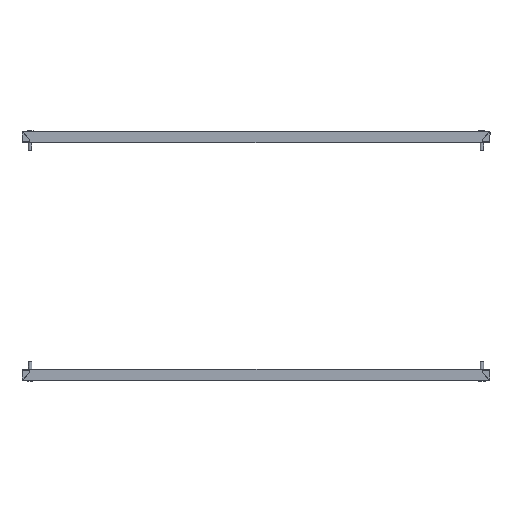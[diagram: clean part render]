
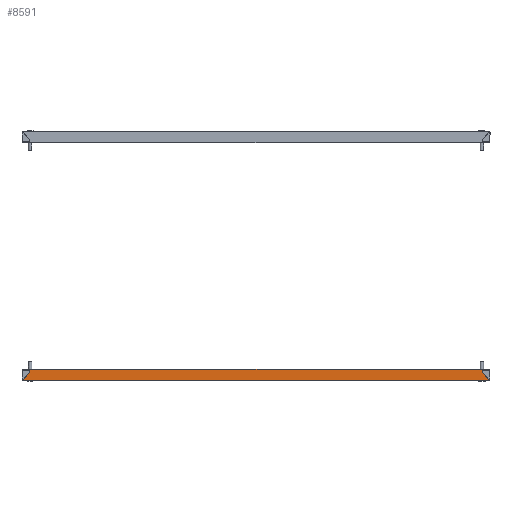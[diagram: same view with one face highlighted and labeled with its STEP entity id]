
A CAD part, front view. The second image highlights one B-rep face of the part: STEP entity #8591.
In plain terms, the highlighted planar face has unit normal (0, -1, 0).
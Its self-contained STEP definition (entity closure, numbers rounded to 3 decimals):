
#228 = VERTEX_POINT ( 'NONE', #6428 ) ;
#237 = ORIENTED_EDGE ( 'NONE', *, *, #2888, .T. ) ;
#255 = DIRECTION ( 'NONE',  ( 0.707, 0., 0.707 ) ) ;
#291 = EDGE_CURVE ( 'NONE', #8020, #8829, #2747, .T. ) ;
#915 = CARTESIAN_POINT ( 'NONE',  ( -386., -50., 11.646 ) ) ;
#940 = DIRECTION ( 'NONE',  ( -1., 0., 0. ) ) ;
#944 = CARTESIAN_POINT ( 'NONE',  ( -397.181, -50., -0.799 ) ) ;
#1234 = VERTEX_POINT ( 'NONE', #9453 ) ;
#1310 = CARTESIAN_POINT ( 'NONE',  ( -386., -50., 17.5 ) ) ;
#1389 = CARTESIAN_POINT ( 'NONE',  ( 397.223, -50., -1.5 ) ) ;
#1440 = EDGE_CURVE ( 'NONE', #2854, #8829, #4848, .T. ) ;
#1455 = EDGE_CURVE ( 'NONE', #228, #3863, #7176, .T. ) ;
#1557 = CARTESIAN_POINT ( 'NONE',  ( -397.223, -50., -1.5 ) ) ;
#1601 = VECTOR ( 'NONE', #255, 1000. ) ;
#1769 = PLANE ( 'NONE',  #4729 ) ;
#1998 = B_SPLINE_CURVE_WITH_KNOTS ( 'NONE', 3,
 ( #9263, #8615, #3936, #944, #6137, #1557 ),
 .UNSPECIFIED., .F., .F.,
 ( 4, 2, 4 ),
 ( 0.005, 0.006, 0.008 ),
 .UNSPECIFIED. ) ;
#2026 = DIRECTION ( 'NONE',  ( 0.707, 0., -0.707 ) ) ;
#2085 = CARTESIAN_POINT ( 'NONE',  ( 397.121, -50., -0.099 ) ) ;
#2402 = EDGE_CURVE ( 'NONE', #8666, #3863, #2515, .T. ) ;
#2515 = LINE ( 'NONE', #915, #2729 ) ;
#2729 = VECTOR ( 'NONE', #9366, 1000. ) ;
#2747 = B_SPLINE_CURVE_WITH_KNOTS ( 'NONE', 3,
 ( #7646, #5178, #2085, #5231, #8305, #1389 ),
 .UNSPECIFIED., .F., .F.,
 ( 4, 2, 4 ),
 ( 0.005, 0.006, 0.008 ),
 .UNSPECIFIED. ) ;
#2800 = CARTESIAN_POINT ( 'NONE',  ( 386., -50., 17.5 ) ) ;
#2809 = ORIENTED_EDGE ( 'NONE', *, *, #3165, .T. ) ;
#2832 = ORIENTED_EDGE ( 'NONE', *, *, #2402, .T. ) ;
#2854 = VERTEX_POINT ( 'NONE', #6193 ) ;
#2888 = EDGE_CURVE ( 'NONE', #228, #2854, #1998, .T. ) ;
#3165 = EDGE_CURVE ( 'NONE', #1234, #4813, #8442, .T. ) ;
#3332 = CARTESIAN_POINT ( 'NONE',  ( 0., -50., -1.5 ) ) ;
#3863 = VERTEX_POINT ( 'NONE', #5103 ) ;
#3936 = CARTESIAN_POINT ( 'NONE',  ( -397.121, -50., -0.099 ) ) ;
#4222 = EDGE_LOOP ( 'NONE', ( #6146, #2809, #8677, #2832, #5392, #237, #5073, #7783 ) ) ;
#4527 = VECTOR ( 'NONE', #8298, 1000. ) ;
#4729 = AXIS2_PLACEMENT_3D ( 'NONE', #6355, #4853, #6715 ) ;
#4739 = CARTESIAN_POINT ( 'NONE',  ( 0., -50., 17.5 ) ) ;
#4813 = VERTEX_POINT ( 'NONE', #2800 ) ;
#4848 = LINE ( 'NONE', #3332, #8047 ) ;
#4853 = DIRECTION ( 'NONE',  ( 0., 1., 0. ) ) ;
#5073 = ORIENTED_EDGE ( 'NONE', *, *, #1440, .T. ) ;
#5103 = CARTESIAN_POINT ( 'NONE',  ( -386., -50., 11.646 ) ) ;
#5178 = CARTESIAN_POINT ( 'NONE',  ( 397.084, -50., 0.251 ) ) ;
#5231 = CARTESIAN_POINT ( 'NONE',  ( 397.181, -50., -0.799 ) ) ;
#5392 = ORIENTED_EDGE ( 'NONE', *, *, #1455, .F. ) ;
#5561 = FACE_OUTER_BOUND ( 'NONE', #4222, .T. ) ;
#5634 = LINE ( 'NONE', #4739, #7792 ) ;
#6137 = CARTESIAN_POINT ( 'NONE',  ( -397.204, -50., -1.149 ) ) ;
#6146 = ORIENTED_EDGE ( 'NONE', *, *, #8245, .F. ) ;
#6193 = CARTESIAN_POINT ( 'NONE',  ( -397.223, -50., -1.5 ) ) ;
#6355 = CARTESIAN_POINT ( 'NONE',  ( 0., -50., 0. ) ) ;
#6419 = CARTESIAN_POINT ( 'NONE',  ( 397.046, -50., 0.6 ) ) ;
#6428 = CARTESIAN_POINT ( 'NONE',  ( -397.046, -50., 0.6 ) ) ;
#6616 = LINE ( 'NONE', #8936, #8576 ) ;
#6715 = DIRECTION ( 'NONE',  ( 0., 0., 1. ) ) ;
#6912 = CARTESIAN_POINT ( 'NONE',  ( 397.223, -50., -1.5 ) ) ;
#7176 = LINE ( 'NONE', #7778, #1601 ) ;
#7646 = CARTESIAN_POINT ( 'NONE',  ( 397.046, -50., 0.6 ) ) ;
#7778 = CARTESIAN_POINT ( 'NONE',  ( -397.046, -50., 0.6 ) ) ;
#7783 = ORIENTED_EDGE ( 'NONE', *, *, #291, .F. ) ;
#7792 = VECTOR ( 'NONE', #940, 1000. ) ;
#7925 = DIRECTION ( 'NONE',  ( 1., 0., 0. ) ) ;
#8020 = VERTEX_POINT ( 'NONE', #6419 ) ;
#8047 = VECTOR ( 'NONE', #7925, 1000. ) ;
#8245 = EDGE_CURVE ( 'NONE', #1234, #8020, #6616, .T. ) ;
#8298 = DIRECTION ( 'NONE',  ( 0., 0., 1. ) ) ;
#8305 = CARTESIAN_POINT ( 'NONE',  ( 397.204, -50., -1.149 ) ) ;
#8442 = LINE ( 'NONE', #8493, #4527 ) ;
#8493 = CARTESIAN_POINT ( 'NONE',  ( 386., -50., 11.646 ) ) ;
#8576 = VECTOR ( 'NONE', #2026, 1000. ) ;
#8591 = ADVANCED_FACE ( 'NONE', ( #5561 ), #1769, .F. ) ;
#8615 = CARTESIAN_POINT ( 'NONE',  ( -397.084, -50., 0.251 ) ) ;
#8666 = VERTEX_POINT ( 'NONE', #1310 ) ;
#8677 = ORIENTED_EDGE ( 'NONE', *, *, #9139, .T. ) ;
#8829 = VERTEX_POINT ( 'NONE', #6912 ) ;
#8936 = CARTESIAN_POINT ( 'NONE',  ( -164.59, -50., 562.237 ) ) ;
#9139 = EDGE_CURVE ( 'NONE', #4813, #8666, #5634, .T. ) ;
#9263 = CARTESIAN_POINT ( 'NONE',  ( -397.046, -50., 0.6 ) ) ;
#9366 = DIRECTION ( 'NONE',  ( 0., 0., -1. ) ) ;
#9453 = CARTESIAN_POINT ( 'NONE',  ( 386., -50., 11.646 ) ) ;
